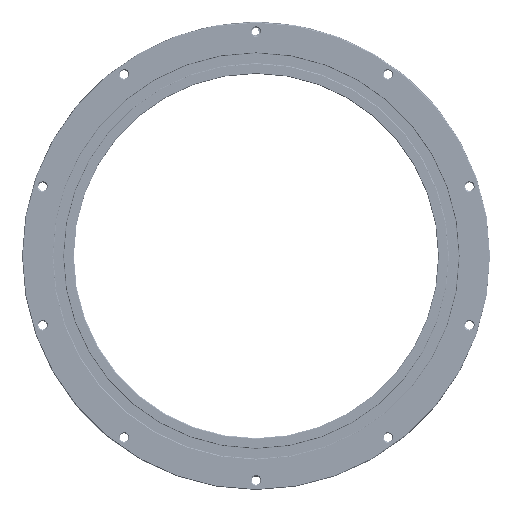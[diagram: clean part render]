
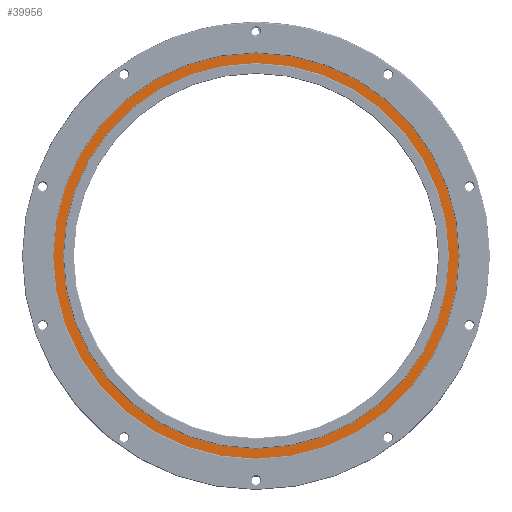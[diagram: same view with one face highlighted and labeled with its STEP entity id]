
A CAD part, top view. The second image highlights one B-rep face of the part: STEP entity #39956.
In plain terms, the highlighted planar face has unit normal (0, 0, 1).
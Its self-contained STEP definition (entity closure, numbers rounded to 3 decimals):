
#546 = PLANE ( 'NONE',  #167384 ) ;
#3035 = DIRECTION ( 'NONE',  ( -1., 0., 0. ) ) ;
#14455 = VERTEX_POINT ( 'NONE', #201444 ) ;
#18082 = CARTESIAN_POINT ( 'NONE',  ( 0., 0., 32.2 ) ) ;
#28496 = DIRECTION ( 'NONE',  ( -1., 0., 0. ) ) ;
#35618 = DIRECTION ( 'NONE',  ( 0., 0., -1. ) ) ;
#39956 = ADVANCED_FACE ( 'NONE', ( #148135, #146020 ), #546, .F. ) ;
#49276 = VERTEX_POINT ( 'NONE', #195376 ) ;
#53933 = CARTESIAN_POINT ( 'NONE',  ( 0., 0., 32.2 ) ) ;
#60476 = ORIENTED_EDGE ( 'NONE', *, *, #80962, .T. ) ;
#65993 = VERTEX_POINT ( 'NONE', #82974 ) ;
#66737 = DIRECTION ( 'NONE',  ( 0., 0., 1. ) ) ;
#68837 = EDGE_CURVE ( 'NONE', #65993, #106433, #205561, .T. ) ;
#69325 = DIRECTION ( 'NONE',  ( -1., 0., 0. ) ) ;
#73206 = EDGE_CURVE ( 'NONE', #106433, #65993, #209329, .T. ) ;
#78513 = EDGE_LOOP ( 'NONE', ( #60476, #207861 ) ) ;
#80962 = EDGE_CURVE ( 'NONE', #14455, #49276, #179183, .T. ) ;
#82974 = CARTESIAN_POINT ( 'NONE',  ( -57.185, 0., 32.2 ) ) ;
#91054 = AXIS2_PLACEMENT_3D ( 'NONE', #116494, #133463, #164308 ) ;
#99833 = DIRECTION ( 'NONE',  ( 0., 0., -1. ) ) ;
#106433 = VERTEX_POINT ( 'NONE', #173729 ) ;
#107571 = AXIS2_PLACEMENT_3D ( 'NONE', #167013, #187100, #69325 ) ;
#116494 = CARTESIAN_POINT ( 'NONE',  ( 0., 0., 32.2 ) ) ;
#131152 = CARTESIAN_POINT ( 'NONE',  ( 0., 0., 32.2 ) ) ;
#133463 = DIRECTION ( 'NONE',  ( 0., 0., 1. ) ) ;
#146020 = FACE_BOUND ( 'NONE', #210193, .T. ) ;
#148135 = FACE_OUTER_BOUND ( 'NONE', #78513, .T. ) ;
#151250 = AXIS2_PLACEMENT_3D ( 'NONE', #18082, #99833, #162482 ) ;
#162482 = DIRECTION ( 'NONE',  ( -1., 0., 0. ) ) ;
#164308 = DIRECTION ( 'NONE',  ( -1., 0., 0. ) ) ;
#167013 = CARTESIAN_POINT ( 'NONE',  ( 0., 0., 32.2 ) ) ;
#167384 = AXIS2_PLACEMENT_3D ( 'NONE', #131152, #35618, #28496 ) ;
#173622 = ORIENTED_EDGE ( 'NONE', *, *, #68837, .T. ) ;
#173729 = CARTESIAN_POINT ( 'NONE',  ( 57.185, 0., 32.2 ) ) ;
#179183 = CIRCLE ( 'NONE', #91054, 60.085 ) ;
#180343 = AXIS2_PLACEMENT_3D ( 'NONE', #53933, #66737, #3035 ) ;
#187100 = DIRECTION ( 'NONE',  ( 0., 0., -1. ) ) ;
#187345 = EDGE_CURVE ( 'NONE', #49276, #14455, #193964, .T. ) ;
#193535 = ORIENTED_EDGE ( 'NONE', *, *, #73206, .T. ) ;
#193964 = CIRCLE ( 'NONE', #180343, 60.085 ) ;
#195376 = CARTESIAN_POINT ( 'NONE',  ( 60.085, 0., 32.2 ) ) ;
#201444 = CARTESIAN_POINT ( 'NONE',  ( -60.085, 0., 32.2 ) ) ;
#205561 = CIRCLE ( 'NONE', #151250, 57.185 ) ;
#207861 = ORIENTED_EDGE ( 'NONE', *, *, #187345, .T. ) ;
#209329 = CIRCLE ( 'NONE', #107571, 57.185 ) ;
#210193 = EDGE_LOOP ( 'NONE', ( #173622, #193535 ) ) ;
